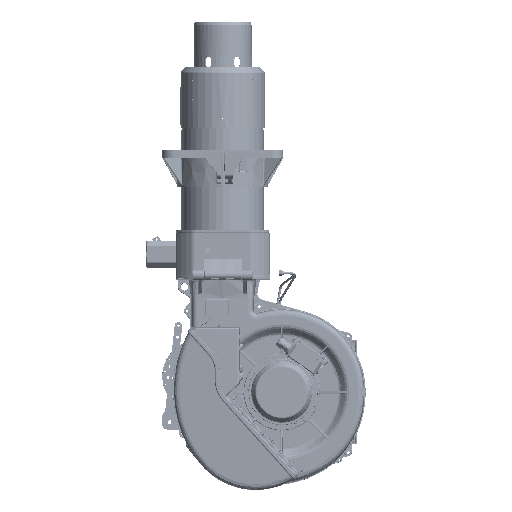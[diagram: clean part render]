
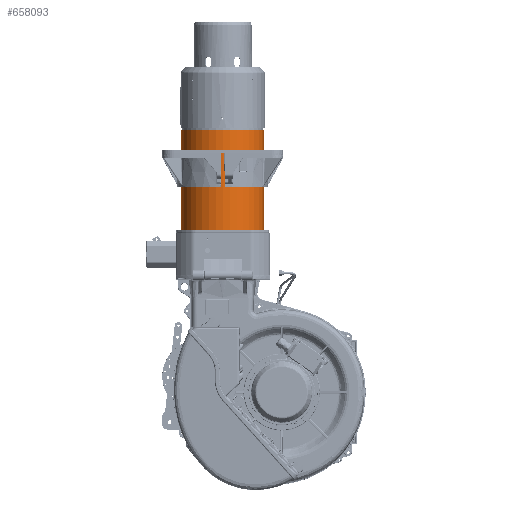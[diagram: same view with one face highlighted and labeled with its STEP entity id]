
A CAD part, left-side view. The second image highlights one B-rep face of the part: STEP entity #658093.
In plain terms, the highlighted cylindrical face has radius 109.55 mm (diameter 219.1 mm), a full revolution.
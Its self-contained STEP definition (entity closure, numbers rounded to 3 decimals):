
#17076 = FACE_OUTER_BOUND ( 'NONE', #592232, .T. ) ;
#33031 = EDGE_LOOP ( 'NONE', ( #440276 ) ) ;
#38344 = EDGE_CURVE ( 'NONE', #460366, #460366, #789882, .T. ) ;
#126388 = DIRECTION ( 'NONE',  ( 1., 0., 0. ) ) ;
#134266 = DIRECTION ( 'NONE',  ( 0., 0., -1. ) ) ;
#134853 = DIRECTION ( 'NONE',  ( 0., 0., 1. ) ) ;
#137444 = CARTESIAN_POINT ( 'NONE',  ( 0., -82.117, -0.521 ) ) ;
#159819 = VERTEX_POINT ( 'NONE', #753617 ) ;
#201469 = FACE_OUTER_BOUND ( 'NONE', #33031, .T. ) ;
#265426 = AXIS2_PLACEMENT_3D ( 'NONE', #499753, #134853, #703962 ) ;
#432073 = CIRCLE ( 'NONE', #265426, 109.55 ) ;
#440276 = ORIENTED_EDGE ( 'NONE', *, *, #38344, .T. ) ;
#444008 = AXIS2_PLACEMENT_3D ( 'NONE', #450781, #134266, #126388 ) ;
#448504 = CARTESIAN_POINT ( 'NONE',  ( 109.55, -82.115, 107.019 ) ) ;
#450781 = CARTESIAN_POINT ( 'NONE',  ( 0., -82.117, 107.019 ) ) ;
#453878 = ORIENTED_EDGE ( 'NONE', *, *, #518119, .T. ) ;
#460366 = VERTEX_POINT ( 'NONE', #448504 ) ;
#498414 = CYLINDRICAL_SURFACE ( 'NONE', #535881, 109.55 ) ;
#499753 = CARTESIAN_POINT ( 'NONE',  ( 0., -82.117, -164.021 ) ) ;
#518119 = EDGE_CURVE ( 'NONE', #159819, #159819, #432073, .T. ) ;
#535881 = AXIS2_PLACEMENT_3D ( 'NONE', #137444, #614879, #678955 ) ;
#592232 = EDGE_LOOP ( 'NONE', ( #453878 ) ) ;
#614879 = DIRECTION ( 'NONE',  ( 0., 0., -1. ) ) ;
#658093 = ADVANCED_FACE ( 'NONE', ( #201469, #17076 ), #498414, .T. ) ;
#678955 = DIRECTION ( 'NONE',  ( 1., 0., 0. ) ) ;
#703962 = DIRECTION ( 'NONE',  ( 1., 0., 0. ) ) ;
#753617 = CARTESIAN_POINT ( 'NONE',  ( 109.55, -82.115, -164.021 ) ) ;
#789882 = CIRCLE ( 'NONE', #444008, 109.55 ) ;
